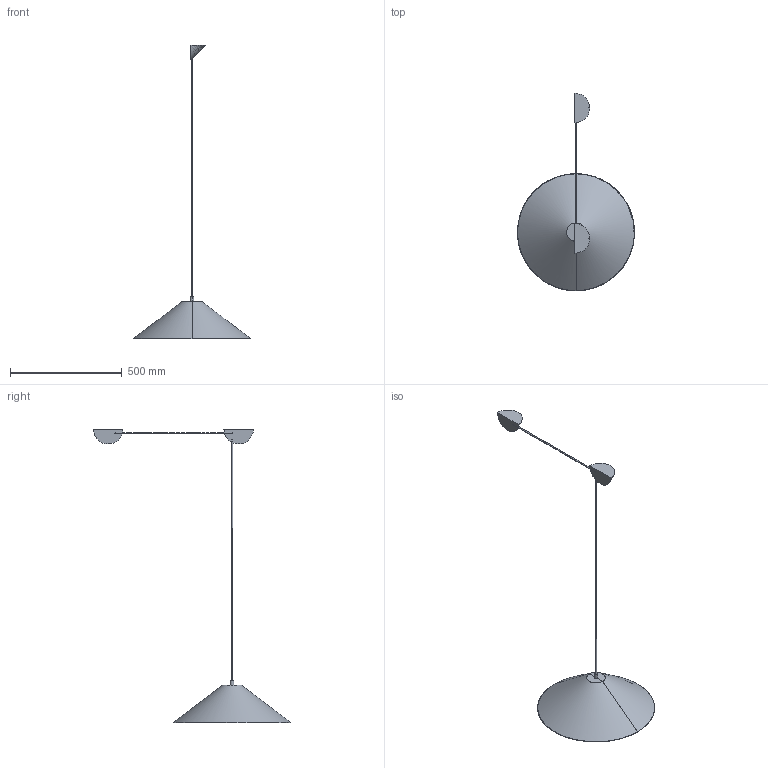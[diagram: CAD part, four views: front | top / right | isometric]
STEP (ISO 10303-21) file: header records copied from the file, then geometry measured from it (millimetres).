
FILE_DESCRIPTION(/* description */ (''),/* implementation_level */ '2;1');
FILE_NAME(/* name */ 'Aggregato_Conico_Decentrato_d53_3D',/* time_stamp */ '2021-10-25T18:02:11+02:00',/* author */ (''),/* organization */ (''),/* preprocessor_version */ 'ST-DEVELOPER v15',/* originating_system */ '',/* authorisation */ '');
FILE_SCHEMA (('AUTOMOTIVE_DESIGN'));
Length unit declared in the file: millimetre
Products named in the file (2): Document; Blocco 06
Assembly tree (1 placements, depth 2):
  Document
    Blocco 06
Bounding box: 522.87 x 880.68 x 1311.82 mm (x, y, z)
Volume: 380176 mm3; surface area: 648108.8 mm2
Topology: 2 solids, 18 shells, 43 faces, 112 edges, 85 vertices
Faces by surface type: bspline 30, plane 13
Entity records: 1727 total; most frequent: CARTESIAN_POINT 1072, ORIENTED_EDGE 160, EDGE_CURVE 110, VERTEX_POINT 85, ADVANCED_FACE 43, FACE_OUTER_BOUND 43, EDGE_LOOP 43, DIRECTION 25
